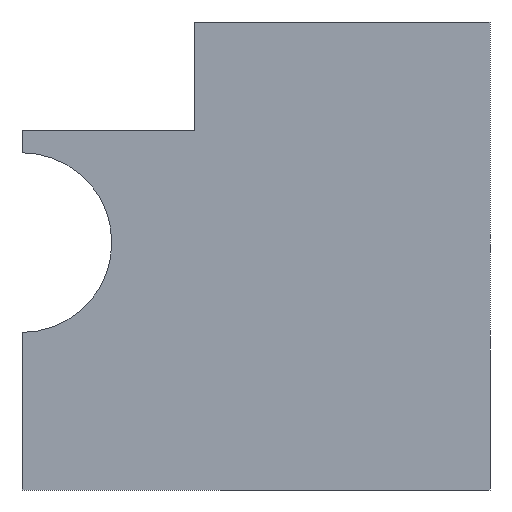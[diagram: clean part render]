
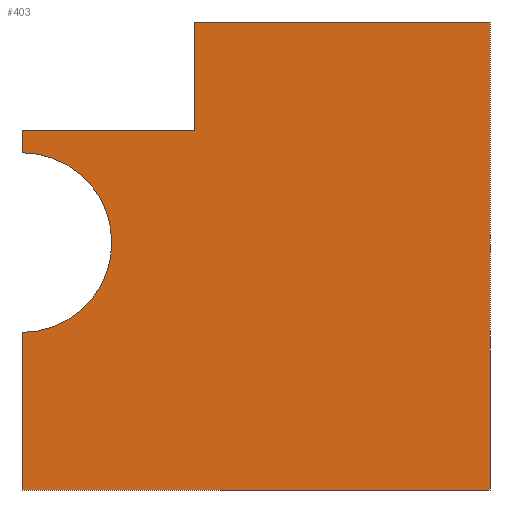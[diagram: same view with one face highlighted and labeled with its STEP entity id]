
A CAD part, front view. The second image highlights one B-rep face of the part: STEP entity #403.
In plain terms, the highlighted planar face has unit normal (0, -1, 0).
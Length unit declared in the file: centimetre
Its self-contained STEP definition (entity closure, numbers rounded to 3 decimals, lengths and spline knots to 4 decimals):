
#7 = DIRECTION ( 'NONE',  ( 0., 0., -1. ) ) ;
#9 = LINE ( 'NONE', #391, #486 ) ;
#10 = CARTESIAN_POINT ( 'NONE',  ( 1000., 0., 0. ) ) ;
#16 = CARTESIAN_POINT ( 'NONE',  ( 0., 0., 767.7953 ) ) ;
#20 = DIRECTION ( 'NONE',  ( 0., 0., -1. ) ) ;
#30 = VECTOR ( 'NONE', #20, 100. ) ;
#36 = ORIENTED_EDGE ( 'NONE', *, *, #80, .T. ) ;
#38 = VERTEX_POINT ( 'NONE', #368 ) ;
#42 = VECTOR ( 'NONE', #159, 100. ) ;
#57 = CARTESIAN_POINT ( 'NONE',  ( 0., 0., 336.7292 ) ) ;
#59 = CARTESIAN_POINT ( 'NONE',  ( 367.855, 0., 767.7953 ) ) ;
#63 = EDGE_CURVE ( 'NONE', #259, #38, #196, .T. ) ;
#75 = VECTOR ( 'NONE', #280, 100. ) ;
#80 = EDGE_CURVE ( 'NONE', #263, #197, #258, .T. ) ;
#82 = DIRECTION ( 'NONE',  ( 0., 1., 0. ) ) ;
#84 = ORIENTED_EDGE ( 'NONE', *, *, #407, .F. ) ;
#97 = DIRECTION ( 'NONE',  ( 1., 0., 0. ) ) ;
#102 = VECTOR ( 'NONE', #7, 100. ) ;
#112 = ORIENTED_EDGE ( 'NONE', *, *, #205, .T. ) ;
#122 = VERTEX_POINT ( 'NONE', #472 ) ;
#127 = LINE ( 'NONE', #276, #102 ) ;
#159 = DIRECTION ( 'NONE',  ( 1., 0., 0. ) ) ;
#170 = LINE ( 'NONE', #59, #176 ) ;
#174 = CARTESIAN_POINT ( 'NONE',  ( 0., 0., 720.5596 ) ) ;
#176 = VECTOR ( 'NONE', #242, 100. ) ;
#196 = LINE ( 'NONE', #16, #42 ) ;
#197 = VERTEX_POINT ( 'NONE', #57 ) ;
#203 = PLANE ( 'NONE',  #409 ) ;
#205 = EDGE_CURVE ( 'NONE', #259, #263, #9, .T. ) ;
#207 = LINE ( 'NONE', #278, #482 ) ;
#224 = VERTEX_POINT ( 'NONE', #244 ) ;
#226 = ORIENTED_EDGE ( 'NONE', *, *, #250, .F. ) ;
#236 = FACE_OUTER_BOUND ( 'NONE', #457, .T. ) ;
#242 = DIRECTION ( 'NONE',  ( 0., 0., 1. ) ) ;
#244 = CARTESIAN_POINT ( 'NONE',  ( 0., 0., 0. ) ) ;
#245 = CARTESIAN_POINT ( 'NONE',  ( 1000., 0., 1000. ) ) ;
#250 = EDGE_CURVE ( 'NONE', #467, #419, #326, .T. ) ;
#252 = ORIENTED_EDGE ( 'NONE', *, *, #321, .T. ) ;
#255 = ORIENTED_EDGE ( 'NONE', *, *, #63, .F. ) ;
#258 = CIRCLE ( 'NONE', #279, 191.9152 ) ;
#259 = VERTEX_POINT ( 'NONE', #320 ) ;
#263 = VERTEX_POINT ( 'NONE', #174 ) ;
#276 = CARTESIAN_POINT ( 'NONE',  ( 0., 0., 1000. ) ) ;
#278 = CARTESIAN_POINT ( 'NONE',  ( 0., 0., 1000. ) ) ;
#279 = AXIS2_PLACEMENT_3D ( 'NONE', #475, #82, #309 ) ;
#280 = DIRECTION ( 'NONE',  ( 1., 0., 0. ) ) ;
#281 = CARTESIAN_POINT ( 'NONE',  ( 0., 0., 0. ) ) ;
#309 = DIRECTION ( 'NONE',  ( 0., 0., 1. ) ) ;
#320 = CARTESIAN_POINT ( 'NONE',  ( 0., 0., 767.7953 ) ) ;
#321 = EDGE_CURVE ( 'NONE', #197, #224, #127, .T. ) ;
#326 = LINE ( 'NONE', #358, #30 ) ;
#342 = DIRECTION ( 'NONE',  ( 0., 0., -1. ) ) ;
#343 = ORIENTED_EDGE ( 'NONE', *, *, #452, .T. ) ;
#354 = DIRECTION ( 'NONE',  ( 0., 1., 0. ) ) ;
#358 = CARTESIAN_POINT ( 'NONE',  ( 1000., 0., 1000. ) ) ;
#368 = CARTESIAN_POINT ( 'NONE',  ( 367.855, 0., 767.7953 ) ) ;
#388 = ORIENTED_EDGE ( 'NONE', *, *, #431, .F. ) ;
#391 = CARTESIAN_POINT ( 'NONE',  ( 0., 0., 1000. ) ) ;
#392 = DIRECTION ( 'NONE',  ( 0., 0., 1. ) ) ;
#403 = ADVANCED_FACE ( 'NONE', ( #236 ), #203, .F. ) ;
#407 = EDGE_CURVE ( 'NONE', #122, #467, #207, .T. ) ;
#409 = AXIS2_PLACEMENT_3D ( 'NONE', #479, #354, #392 ) ;
#419 = VERTEX_POINT ( 'NONE', #10 ) ;
#431 = EDGE_CURVE ( 'NONE', #38, #122, #170, .T. ) ;
#452 = EDGE_CURVE ( 'NONE', #224, #419, #480, .T. ) ;
#457 = EDGE_LOOP ( 'NONE', ( #84, #388, #255, #112, #36, #252, #343, #226 ) ) ;
#467 = VERTEX_POINT ( 'NONE', #245 ) ;
#472 = CARTESIAN_POINT ( 'NONE',  ( 367.855, 0., 1000. ) ) ;
#475 = CARTESIAN_POINT ( 'NONE',  ( 0., 0., 528.6444 ) ) ;
#479 = CARTESIAN_POINT ( 'NONE',  ( 0., 0., 1000. ) ) ;
#480 = LINE ( 'NONE', #281, #75 ) ;
#482 = VECTOR ( 'NONE', #97, 100. ) ;
#486 = VECTOR ( 'NONE', #342, 100. ) ;
